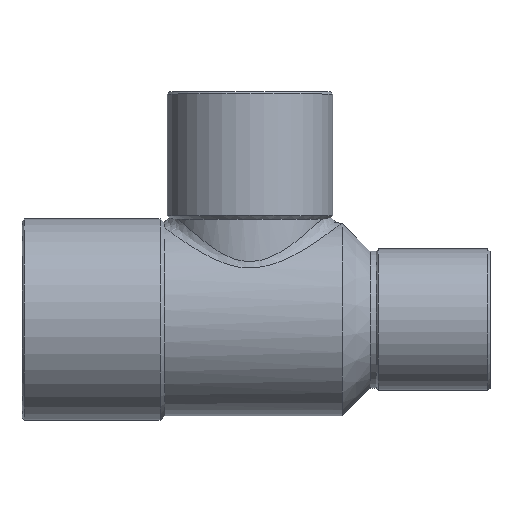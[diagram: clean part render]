
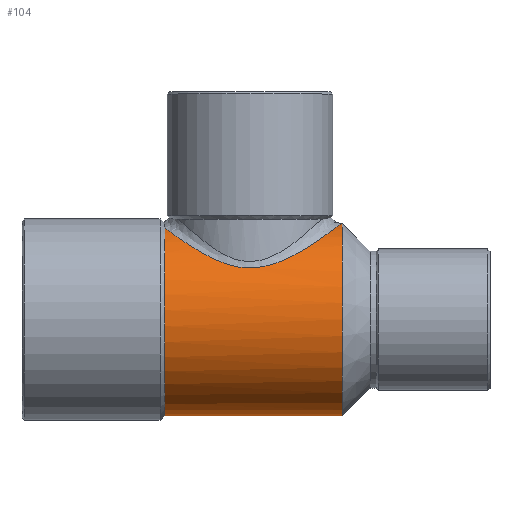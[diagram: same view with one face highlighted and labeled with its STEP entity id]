
A CAD part, top view. The second image highlights one B-rep face of the part: STEP entity #104.
In plain terms, the highlighted cylindrical face has radius 8 mm (diameter 16 mm), a partial arc.
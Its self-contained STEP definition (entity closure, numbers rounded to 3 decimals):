
#44=CARTESIAN_POINT('',(0.5,0.,0.0));
#45=DIRECTION('',(1.0,0.,0.0));
#46=DIRECTION('',(0.0,1.0,0.0));
#47=AXIS2_PLACEMENT_3D('',#44,#45,#46);
#48=CYLINDRICAL_SURFACE('',#47,8.);
#49=CARTESIAN_POINT('',(7.6,8.,0.));
#50=VERTEX_POINT('',#49);
#51=CARTESIAN_POINT('',(7.7,8.,0.0));
#52=VERTEX_POINT('',#51);
#53=CARTESIAN_POINT('',(7.6,8.,0.));
#54=DIRECTION('',(1.0,0.0,0.0));
#55=VECTOR('',#54,0.1);
#56=LINE('',#53,#55);
#57=EDGE_CURVE('',#50,#52,#56,.T.);
#58=ORIENTED_EDGE('',*,*,#57,.F.);
#59=CARTESIAN_POINT('',(-7.1,7.628,2.41));
#60=VERTEX_POINT('',#59);
#61=CARTESIAN_POINT('',(-7.099,7.628,2.41));
#62=CARTESIAN_POINT('',(-7.07,7.606,2.48));
#63=CARTESIAN_POINT('',(-7.038,7.583,2.55));
#64=CARTESIAN_POINT('',(-6.412,7.124,3.874));
#65=CARTESIAN_POINT('',(-5.453,6.424,4.868));
#66=CARTESIAN_POINT('',(-3.385,5.201,6.128));
#67=CARTESIAN_POINT('',(-2.319,4.637,6.526));
#68=CARTESIAN_POINT('',(0.115,4.155,6.843));
#69=CARTESIAN_POINT('',(1.435,4.388,6.713));
#70=CARTESIAN_POINT('',(4.406,5.613,5.783));
#71=CARTESIAN_POINT('',(5.893,6.751,4.643));
#72=CARTESIAN_POINT('',(7.31,7.779,2.103));
#73=CARTESIAN_POINT('',(7.6,8.,1.053));
#74=CARTESIAN_POINT('',(7.6,8.,0.));
#75=B_SPLINE_CURVE_WITH_KNOTS('',3,(#61,#62,#63,#64,#65,#66,#67,#68,#69,#70,#71,#72,#73,#74),.UNSPECIFIED.,.F.,.U.,(4,2,2,2,2,2,4),(1.074,1.097,1.5,1.818,2.136,2.686,2.986),.UNSPECIFIED.);
#76=EDGE_CURVE('',#60,#50,#75,.T.);
#77=ORIENTED_EDGE('',*,*,#76,.F.);
#78=CARTESIAN_POINT('',(-7.1,-8.,0.));
#79=VERTEX_POINT('',#78);
#80=CARTESIAN_POINT('',(-7.1,0.,0.0));
#81=DIRECTION('',(1.0,0.0,0.0));
#82=DIRECTION('',(0.0,1.0,0.0));
#83=AXIS2_PLACEMENT_3D('',#80,#81,#82);
#84=CIRCLE('',#83,8.);
#85=EDGE_CURVE('',#60,#79,#84,.T.);
#86=ORIENTED_EDGE('',*,*,#85,.T.);
#87=CARTESIAN_POINT('',(7.7,-8.,0.));
#88=VERTEX_POINT('',#87);
#89=CARTESIAN_POINT('',(7.7,-8.,0.));
#90=DIRECTION('',(-1.0,0.0,0.0));
#91=VECTOR('',#90,14.8);
#92=LINE('',#89,#91);
#93=EDGE_CURVE('',#88,#79,#92,.T.);
#94=ORIENTED_EDGE('',*,*,#93,.F.);
#95=CARTESIAN_POINT('',(7.7,0.,0.0));
#96=DIRECTION('',(-1.0,0.0,0.0));
#97=DIRECTION('',(0.0,1.0,0.0));
#98=AXIS2_PLACEMENT_3D('',#95,#96,#97);
#99=CIRCLE('',#98,8.);
#100=EDGE_CURVE('',#88,#52,#99,.T.);
#101=ORIENTED_EDGE('',*,*,#100,.T.);
#102=EDGE_LOOP('',(#58,#77,#86,#94,#101));
#103=FACE_OUTER_BOUND('',#102,.T.);
#104=ADVANCED_FACE('',(#103),#48,.T.);
